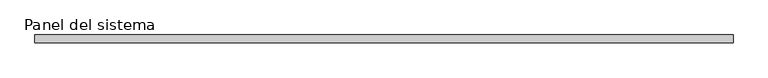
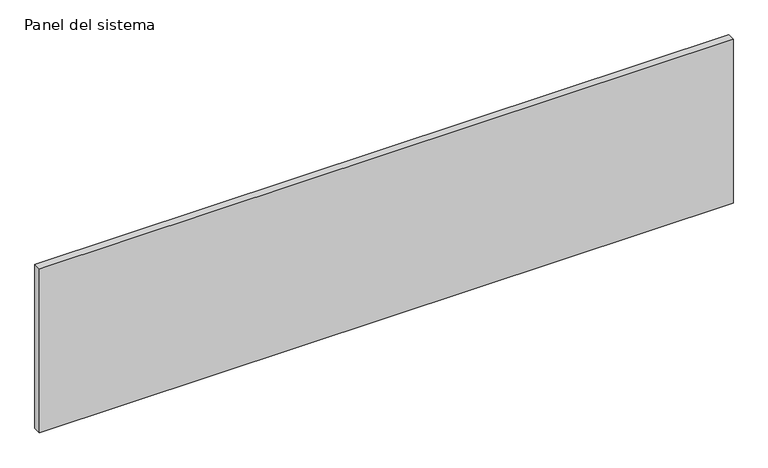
"""IFC4 building model written with IfcOpenShell, lengths in millimetres: plate geometry, Panel del sistema : Hiansa Panel - Fachada Panel SEMILISO Hor - 50mm."""

import ifcopenshell
import ifcopenshell.guid

model = None  # the IFC model being written
_history = None  # IfcOwnerHistory: only IFC2X3 demands one
_inside = {}  # id of a spatial element -> (the spatial element, [elements in it])
_under = {}  # id of a project, library or spatial element -> (it, [spatial elements below it])
_declared = {}  # id of a project -> (the project, [libraries it declares])
_typed = {}  # id of a type object -> (the type object, [elements of that type])
_made_of = {}  # id of a material, layer set ... -> (it, [elements and type objects made of it])


def new_model(schema):
    """Start an empty IFC model of exactly this schema.

    Asked for "IFC4X3", IfcOpenShell would pick the latest addendum, in which some entities
    have other attributes; the version numbers below select the first issue.
    IFC2X3 requires an IfcOwnerHistory on every rooted entity: one is made here for all.
    """
    global model, _history
    if schema == "IFC4X3":
        model = ifcopenshell.file(schema_version=(4, 3, 0, 0))
    else:
        model = ifcopenshell.file(schema=schema)
    _inside.clear()
    _under.clear()
    _declared.clear()
    _typed.clear()
    _made_of.clear()
    _history = None
    if model.schema == "IFC2X3":
        org = make("IfcOrganization", Name="unknown")
        user = make(
            "IfcPersonAndOrganization",
            ThePerson=make("IfcPerson", FamilyName="unknown"),
            TheOrganization=org,
        )
        app = make(
            "IfcApplication",
            ApplicationDeveloper=org,
            Version="unknown",
            ApplicationFullName="unknown",
            ApplicationIdentifier="unknown",
        )
        _history = make(
            "IfcOwnerHistory",
            OwningUser=user,
            OwningApplication=app,
            ChangeAction="ADDED",
            CreationDate=0,
        )
    return model


def make(cls, **values):
    """One entity of the class cls with the attributes given. An attribute that is None is left unset."""
    return model.create_entity(
        cls, **{name: value for name, value in values.items() if value is not None}
    )


def rooted(cls, **values):
    """An entity with a GlobalId (a new one), such as an element, a storey or a relation."""
    return make(cls, GlobalId=ifcopenshell.guid.new(), OwnerHistory=_history, **values)


def si_unit(unit_type, name, prefix=None):
    """IfcSIUnit, for example si_unit("LENGTHUNIT", "METRE", prefix="MILLI")."""
    return make("IfcSIUnit", UnitType=unit_type, Prefix=prefix, Name=name)


def assignment(units):
    """IfcUnitAssignment: the units of a project."""
    return None if units is None else make("IfcUnitAssignment", Units=units)


def point(xyz):
    """IfcCartesianPoint."""
    return None if xyz is None else make("IfcCartesianPoint", Coordinates=xyz)


def direction(xyz):
    """IfcDirection."""
    return None if xyz is None else make("IfcDirection", DirectionRatios=xyz)


def frame(location, z_axis=None, x_axis=None):
    """IfcAxis2Placement3D, a coordinate frame: its origin and axes. An axis left out is left unset."""
    return make(
        "IfcAxis2Placement3D",
        Location=point(location),
        Axis=direction(z_axis),
        RefDirection=direction(x_axis),
    )


def origin():
    """The frame at (0, 0, 0) with its axes left unset."""
    return frame((0.0, 0.0, 0.0))


def origin_with_axes():
    """The frame at (0, 0, 0) with the z axis (0, 0, 1) and the x axis (1, 0, 0) written out."""
    return frame((0.0, 0.0, 0.0), z_axis=(0.0, 0.0, 1.0), x_axis=(1.0, 0.0, 0.0))


def place(relative_to, where):
    """IfcLocalPlacement: puts the frame where relative to a parent placement (None: the world)."""
    return make(
        "IfcLocalPlacement", PlacementRelTo=relative_to, RelativePlacement=where
    )


def context(
    kind, dimensions, precision=None, world=None, true_north=None, identifier=None
):
    """IfcGeometricRepresentationContext, for example the 3D "Model" context."""
    return make(
        "IfcGeometricRepresentationContext",
        ContextIdentifier=identifier,
        ContextType=kind,
        CoordinateSpaceDimension=dimensions,
        Precision=precision,
        WorldCoordinateSystem=world,
        TrueNorth=true_north,
    )


def project(units=None, contexts=None):
    """IfcProject with its units and contexts."""
    return rooted(
        "IfcProject",
        Name="project",
        RepresentationContexts=contexts,
        UnitsInContext=assignment(units),
    )


def spatial(cls, under=None, at=None, **own):
    """A site, building, storey or space (cls), placed at a placement, below another one or the project."""
    s = rooted(cls, ObjectPlacement=at, **own)
    if under is not None:
        _under.setdefault(under.id(), (under, []))[1].append(s)
    return s


def polyline(points):
    """IfcPolyline through the points."""
    return make("IfcPolyline", Points=[point(p) for p in points])


def outline(outer, holes=None, kind="AREA"):
    """IfcArbitraryClosedProfileDef: a profile drawn as a closed curve; with holes, ...WithVoids."""
    if holes is None:
        return make("IfcArbitraryClosedProfileDef", ProfileType=kind, OuterCurve=outer)
    return make(
        "IfcArbitraryProfileDefWithVoids",
        ProfileType=kind,
        OuterCurve=outer,
        InnerCurves=holes,
    )


def extrude(swept, where, along, depth):
    """IfcExtrudedAreaSolid: the profile swept, set in the frame where, extruded along a direction by depth."""
    return make(
        "IfcExtrudedAreaSolid",
        SweptArea=swept,
        Position=where,
        ExtrudedDirection=direction(along),
        Depth=depth,
    )


def shape(context_of_items, identifier, shape_type, items):
    """IfcShapeRepresentation: the items that make up one representation, for example the "Body"."""
    return make(
        "IfcShapeRepresentation",
        ContextOfItems=context_of_items,
        RepresentationIdentifier=identifier,
        RepresentationType=shape_type,
        Items=items,
    )


def source(mapping_origin, context_of_items, identifier, shape_type, items):
    """IfcRepresentationMap: a shape defined once, which mapped items show again and again."""
    return make(
        "IfcRepresentationMap",
        MappingOrigin=mapping_origin,
        MappedRepresentation=shape(context_of_items, identifier, shape_type, items),
    )


def transform(
    local_origin,
    x_axis=None,
    y_axis=None,
    z_axis=None,
    scale=None,
    scale2=None,
    scale3=None,
    uniform=True,
):
    """IfcCartesianTransformationOperator3D, or its non-uniform kind. x_axis, y_axis, z_axis: its Axis1, 2, 3."""
    if uniform:
        return make(
            "IfcCartesianTransformationOperator3D",
            Axis1=direction(x_axis),
            Axis2=direction(y_axis),
            LocalOrigin=point(local_origin),
            Scale=scale,
            Axis3=direction(z_axis),
        )
    return make(
        "IfcCartesianTransformationOperator3DnonUniform",
        Axis1=direction(x_axis),
        Axis2=direction(y_axis),
        LocalOrigin=point(local_origin),
        Scale=scale,
        Axis3=direction(z_axis),
        Scale2=scale2,
        Scale3=scale3,
    )


def mapped(mapping_source, mapping_target):
    """IfcMappedItem: shows the shape of a source again, moved by a transform."""
    return make(
        "IfcMappedItem", MappingSource=mapping_source, MappingTarget=mapping_target
    )


def made_of(thing, what):
    """Note that an element or type object is made of a material, layer set ...; save() writes the relation."""
    if what is not None:
        _made_of.setdefault(what.id(), (what, []))[1].append(thing)
    return thing


def element(
    cls,
    number,
    at=None,
    inside=None,
    cuts=None,
    type_object=None,
    material=None,
    context=None,
    identifier="Body",
    shape_type=None,
    held_by="IfcProductDefinitionShape",
    body=None,
    shapes=None,
    **own,
):
    """One element of the class cls, such as IfcWall. Its Tag is "e" and its number.

    at: its placement. inside: the storey or other place that contains it. cuts: it is an
    opening in that element (IfcRelVoidsElement). A single representation is given by context,
    identifier, shape_type and body (its items); several are given by shapes. held_by: the class
    of the entity that holds the representations. save() writes the other relations.
    """
    e = rooted(cls, Tag="e%d" % number, ObjectPlacement=at, **own)
    if body is not None:
        shapes = [shape(context, identifier, shape_type, body)]
    if shapes is not None:
        e.Representation = make(held_by, Representations=shapes)
    if inside is not None:
        _inside.setdefault(inside.id(), (inside, []))[1].append(e)
    if cuts is not None:
        rooted(
            "IfcRelVoidsElement", RelatingBuildingElement=cuts, RelatedOpeningElement=e
        )
    if type_object is not None:
        _typed.setdefault(type_object.id(), (type_object, []))[1].append(e)
    return made_of(e, material)


def aggregate(whole, parts):
    """IfcRelAggregates: a whole, such as a stair, and the parts it consists of."""
    return rooted("IfcRelAggregates", RelatingObject=whole, RelatedObjects=parts)


def save(model, path):
    """Write the relations noted so far, then the file.

    IfcRelAggregates (storeys below a building ...), IfcRelContainedInSpatialStructure (elements
    in a storey), IfcRelDefinesByType, IfcRelAssociatesMaterial and IfcRelDeclares: one each for
    every whole, place, type object, material and project.
    """
    for whole, parts in _under.values():
        aggregate(whole, parts)
    for where, things in _inside.values():
        rooted(
            "IfcRelContainedInSpatialStructure",
            RelatedElements=things,
            RelatingStructure=where,
        )
    for kind, things in _typed.values():
        rooted("IfcRelDefinesByType", RelatedObjects=things, RelatingType=kind)
    for what, things in _made_of.values():
        rooted("IfcRelAssociatesMaterial", RelatedObjects=things, RelatingMaterial=what)
    for by, libraries in _declared.values():
        rooted("IfcRelDeclares", RelatingContext=by, RelatedDefinitions=libraries)
    model.write(path)


def panel_del_sistema_94bf3e14(model_context):
    return source(origin(), model_context, "Body", "SweptSolid", [
        extrude(outline(polyline([(2200.0, -50.0), (-2200.0, -50.0), (-2200.0, 0.0), (2200.0, 0.0), (2200.0, -50.0)])), origin_with_axes(), (0.0, 0.0, 1.0), 1100.0),
    ])


if __name__ == "__main__":
    model = new_model("IFC4")
    model_context = context("Model", 3, world=origin())
    ifc_project = project(units=[si_unit("LENGTHUNIT", "METRE", prefix="MILLI")], contexts=[model_context])
    site = spatial("IfcSite", under=ifc_project)
    building = spatial("IfcBuilding", under=site)
    placement = place(None, origin())
    panel_del_sistema_shape = panel_del_sistema_94bf3e14(model_context)
    element("IfcPlate", 1, ObjectType="Panel del sistema : Hiansa Panel - Fachada Panel SEMILISO Hor - 50mm", at=placement, inside=building, context=model_context, shape_type="MappedRepresentation", body=[
        mapped(panel_del_sistema_shape, transform((0.0, 0.0, 0.0), x_axis=(1.0, 0.0, 0.0), y_axis=(0.0, 1.0, 0.0), z_axis=(0.0, 0.0, 1.0))),
    ])
    save(model, "model.ifc")
